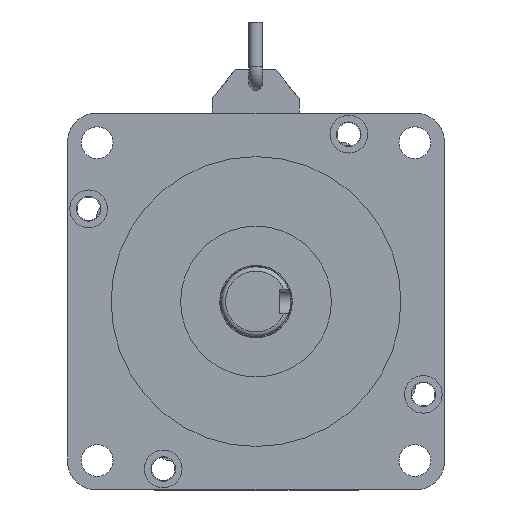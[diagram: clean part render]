
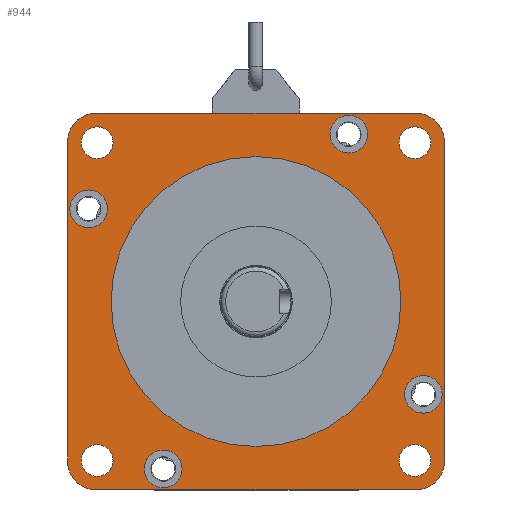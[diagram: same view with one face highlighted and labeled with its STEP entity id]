
A CAD part, front view. The second image highlights one B-rep face of the part: STEP entity #944.
In plain terms, the highlighted planar face has unit normal (0, -1, 0).
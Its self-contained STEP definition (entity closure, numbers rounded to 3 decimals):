
#944=ADVANCED_FACE('',(#1545,#1546,#1547,#1548,#1549,#1550,#1551,#1552,
#1553,#1554),#1260,.T.);
#1260=PLANE('',#8769);
#1545=FACE_BOUND('',#2155,.T.);
#1546=FACE_BOUND('',#2156,.T.);
#1547=FACE_BOUND('',#2157,.T.);
#1548=FACE_BOUND('',#2158,.T.);
#1549=FACE_BOUND('',#2159,.T.);
#1550=FACE_BOUND('',#2160,.T.);
#1551=FACE_BOUND('',#2161,.T.);
#1552=FACE_BOUND('',#2162,.T.);
#1553=FACE_BOUND('',#2163,.T.);
#1554=FACE_BOUND('',#2164,.T.);
#2155=EDGE_LOOP('',(#4236));
#2156=EDGE_LOOP('',(#4237));
#2157=EDGE_LOOP('',(#4238));
#2158=EDGE_LOOP('',(#4239));
#2159=EDGE_LOOP('',(#4240));
#2160=EDGE_LOOP('',(#4241));
#2161=EDGE_LOOP('',(#4242));
#2162=EDGE_LOOP('',(#4243));
#2163=EDGE_LOOP('',(#4244));
#2164=EDGE_LOOP('',(#4245,#4246,#4247,#4248,#4249,#4250,#4251,#4252));
#4236=ORIENTED_EDGE('',*,*,#6183,.T.);
#4237=ORIENTED_EDGE('',*,*,#6181,.T.);
#4238=ORIENTED_EDGE('',*,*,#6179,.T.);
#4239=ORIENTED_EDGE('',*,*,#6177,.T.);
#4240=ORIENTED_EDGE('',*,*,#6168,.T.);
#4241=ORIENTED_EDGE('',*,*,#6166,.T.);
#4242=ORIENTED_EDGE('',*,*,#6164,.T.);
#4243=ORIENTED_EDGE('',*,*,#6170,.T.);
#4244=ORIENTED_EDGE('',*,*,#6186,.T.);
#4245=ORIENTED_EDGE('',*,*,#6148,.F.);
#4246=ORIENTED_EDGE('',*,*,#6157,.T.);
#4247=ORIENTED_EDGE('',*,*,#6155,.F.);
#4248=ORIENTED_EDGE('',*,*,#6163,.T.);
#4249=ORIENTED_EDGE('',*,*,#6134,.F.);
#4250=ORIENTED_EDGE('',*,*,#6161,.T.);
#4251=ORIENTED_EDGE('',*,*,#6141,.F.);
#4252=ORIENTED_EDGE('',*,*,#6159,.T.);
#5072=VERTEX_POINT('',#13294);
#5077=VERTEX_POINT('',#13304);
#5078=VERTEX_POINT('',#13308);
#5083=VERTEX_POINT('',#13318);
#5084=VERTEX_POINT('',#13322);
#5089=VERTEX_POINT('',#13332);
#5090=VERTEX_POINT('',#13336);
#5095=VERTEX_POINT('',#13346);
#5096=VERTEX_POINT('',#13362);
#5098=VERTEX_POINT('',#13367);
#5100=VERTEX_POINT('',#13372);
#5102=VERTEX_POINT('',#13377);
#5109=VERTEX_POINT('',#13396);
#5111=VERTEX_POINT('',#13401);
#5113=VERTEX_POINT('',#13406);
#5115=VERTEX_POINT('',#13411);
#5118=VERTEX_POINT('',#13420);
#6134=EDGE_CURVE('',#5077,#5072,#7279,.T.);
#6141=EDGE_CURVE('',#5083,#5078,#7286,.T.);
#6148=EDGE_CURVE('',#5089,#5084,#7293,.T.);
#6155=EDGE_CURVE('',#5095,#5090,#7300,.T.);
#6157=EDGE_CURVE('',#5089,#5090,#6391,.T.);
#6159=EDGE_CURVE('',#5083,#5084,#6393,.T.);
#6161=EDGE_CURVE('',#5077,#5078,#6395,.T.);
#6163=EDGE_CURVE('',#5095,#5072,#6397,.T.);
#6164=EDGE_CURVE('',#5096,#5096,#6398,.T.);
#6166=EDGE_CURVE('',#5098,#5098,#6400,.T.);
#6168=EDGE_CURVE('',#5100,#5100,#6402,.T.);
#6170=EDGE_CURVE('',#5102,#5102,#6404,.T.);
#6177=EDGE_CURVE('',#5109,#5109,#6411,.T.);
#6179=EDGE_CURVE('',#5111,#5111,#6413,.T.);
#6181=EDGE_CURVE('',#5113,#5113,#6415,.T.);
#6183=EDGE_CURVE('',#5115,#5115,#6417,.T.);
#6186=EDGE_CURVE('',#5118,#5118,#6420,.T.);
#6391=CIRCLE('',#8720,10.);
#6393=CIRCLE('',#8723,10.);
#6395=CIRCLE('',#8726,10.);
#6397=CIRCLE('',#8729,10.);
#6398=CIRCLE('',#8731,5.5);
#6400=CIRCLE('',#8734,5.5);
#6402=CIRCLE('',#8737,5.5);
#6404=CIRCLE('',#8740,5.5);
#6411=CIRCLE('',#8752,6.5);
#6413=CIRCLE('',#8755,6.5);
#6415=CIRCLE('',#8758,6.5);
#6417=CIRCLE('',#8761,6.5);
#6420=CIRCLE('',#8767,50.);
#7279=LINE('',#13305,#8142);
#7286=LINE('',#13319,#8149);
#7293=LINE('',#13333,#8156);
#7300=LINE('',#13347,#8163);
#8142=VECTOR('',#10690,1.);
#8149=VECTOR('',#10699,1.);
#8156=VECTOR('',#10708,1.);
#8163=VECTOR('',#10717,1.);
#8720=AXIS2_PLACEMENT_3D('',#13350,#10722,#10723);
#8723=AXIS2_PLACEMENT_3D('',#13353,#10728,#10729);
#8726=AXIS2_PLACEMENT_3D('',#13356,#10734,#10735);
#8729=AXIS2_PLACEMENT_3D('',#13359,#10740,#10741);
#8731=AXIS2_PLACEMENT_3D('',#13361,#10744,#10745);
#8734=AXIS2_PLACEMENT_3D('',#13366,#10750,#10751);
#8737=AXIS2_PLACEMENT_3D('',#13371,#10756,#10757);
#8740=AXIS2_PLACEMENT_3D('',#13376,#10762,#10763);
#8752=AXIS2_PLACEMENT_3D('',#13395,#10786,#10787);
#8755=AXIS2_PLACEMENT_3D('',#13400,#10792,#10793);
#8758=AXIS2_PLACEMENT_3D('',#13405,#10798,#10799);
#8761=AXIS2_PLACEMENT_3D('',#13410,#10804,#10805);
#8767=AXIS2_PLACEMENT_3D('',#13419,#10816,#10817);
#8769=AXIS2_PLACEMENT_3D('',#13422,#10820,#10821);
#10690=DIRECTION('',(0.,0.,1.));
#10699=DIRECTION('',(-1.,0.,0.));
#10708=DIRECTION('',(0.,0.,-1.));
#10717=DIRECTION('',(1.,0.,0.));
#10722=DIRECTION('',(0.,-1.,0.));
#10723=DIRECTION('',(-1.,0.,0.));
#10728=DIRECTION('',(0.,-1.,0.));
#10729=DIRECTION('',(-1.,0.,0.));
#10734=DIRECTION('',(0.,-1.,0.));
#10735=DIRECTION('',(-1.,0.,0.));
#10740=DIRECTION('',(0.,-1.,0.));
#10741=DIRECTION('',(-1.,0.,0.));
#10744=DIRECTION('',(0.,1.,0.));
#10745=DIRECTION('',(0.,0.,1.));
#10750=DIRECTION('',(0.,1.,0.));
#10751=DIRECTION('',(-1.,0.,0.));
#10756=DIRECTION('',(0.,1.,0.));
#10757=DIRECTION('',(0.,0.,-1.));
#10762=DIRECTION('',(0.,1.,0.));
#10763=DIRECTION('',(1.,0.,0.));
#10786=DIRECTION('',(0.,1.,0.));
#10787=DIRECTION('',(0.,0.,1.));
#10792=DIRECTION('',(0.,1.,0.));
#10793=DIRECTION('',(-1.,0.,0.));
#10798=DIRECTION('',(0.,1.,0.));
#10799=DIRECTION('',(0.,0.,-1.));
#10804=DIRECTION('',(0.,1.,0.));
#10805=DIRECTION('',(1.,0.,0.));
#10816=DIRECTION('',(0.,1.,0.));
#10817=DIRECTION('',(-1.,0.,0.));
#10820=DIRECTION('',(0.,-1.,0.));
#10821=DIRECTION('',(-1.,0.,0.));
#13294=CARTESIAN_POINT('',(298.536,-994.118,102.721));
#13304=CARTESIAN_POINT('',(298.536,-994.118,-7.279));
#13305=CARTESIAN_POINT('',(298.536,-994.118,47.721));
#13308=CARTESIAN_POINT('',(308.536,-994.118,-17.279));
#13318=CARTESIAN_POINT('',(418.536,-994.118,-17.279));
#13319=CARTESIAN_POINT('',(363.536,-994.118,-17.279));
#13322=CARTESIAN_POINT('',(428.536,-994.118,-7.279));
#13332=CARTESIAN_POINT('',(428.536,-994.118,102.721));
#13333=CARTESIAN_POINT('',(428.536,-994.118,47.721));
#13336=CARTESIAN_POINT('',(418.536,-994.118,112.721));
#13346=CARTESIAN_POINT('',(308.536,-994.118,112.721));
#13347=CARTESIAN_POINT('',(363.536,-994.118,112.721));
#13350=CARTESIAN_POINT('',(418.536,-994.118,102.721));
#13353=CARTESIAN_POINT('',(418.536,-994.118,-7.279));
#13356=CARTESIAN_POINT('',(308.536,-994.118,-7.279));
#13359=CARTESIAN_POINT('',(308.536,-994.118,102.721));
#13361=CARTESIAN_POINT('',(418.337,-994.118,102.522));
#13362=CARTESIAN_POINT('',(418.337,-994.118,108.022));
#13366=CARTESIAN_POINT('',(308.736,-994.118,102.522));
#13367=CARTESIAN_POINT('',(303.236,-994.118,102.522));
#13371=CARTESIAN_POINT('',(308.736,-994.118,-7.079));
#13372=CARTESIAN_POINT('',(308.736,-994.118,-12.579));
#13376=CARTESIAN_POINT('',(418.337,-994.118,-7.079));
#13377=CARTESIAN_POINT('',(423.837,-994.118,-7.079));
#13395=CARTESIAN_POINT('',(421.261,-994.118,15.724));
#13396=CARTESIAN_POINT('',(421.261,-994.118,22.224));
#13400=CARTESIAN_POINT('',(395.534,-994.118,105.446));
#13401=CARTESIAN_POINT('',(389.034,-994.118,105.446));
#13405=CARTESIAN_POINT('',(305.811,-994.118,79.719));
#13406=CARTESIAN_POINT('',(305.811,-994.118,73.219));
#13410=CARTESIAN_POINT('',(331.539,-994.118,-10.004));
#13411=CARTESIAN_POINT('',(338.039,-994.118,-10.004));
#13419=CARTESIAN_POINT('',(363.536,-994.118,47.721));
#13420=CARTESIAN_POINT('',(313.536,-994.118,47.721));
#13422=CARTESIAN_POINT('',(363.536,-994.118,47.721));
